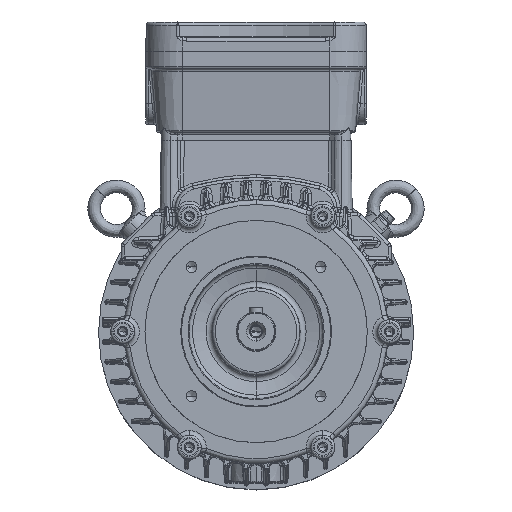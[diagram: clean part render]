
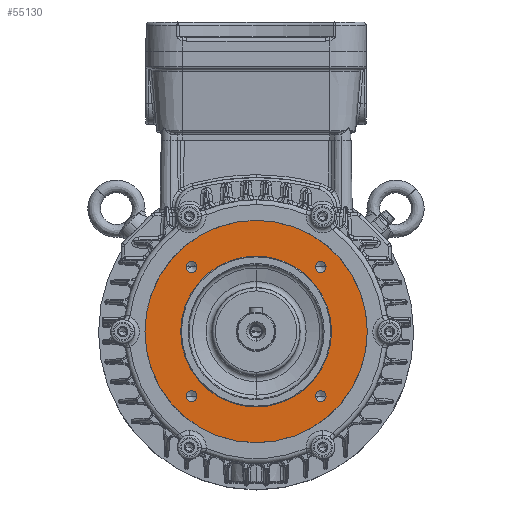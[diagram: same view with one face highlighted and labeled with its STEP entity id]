
A CAD part, top view. The second image highlights one B-rep face of the part: STEP entity #55130.
In plain terms, the highlighted planar face has unit normal (0, 0, 1).
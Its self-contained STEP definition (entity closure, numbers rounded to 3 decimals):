
#1246 = CIRCLE ( 'NONE', #128739, 47.5 ) ;
#3975 = EDGE_CURVE ( 'NONE', #145230, #85190, #66830, .T. ) ;
#5801 = VERTEX_POINT ( 'NONE', #44714 ) ;
#7339 = DIRECTION ( 'NONE',  ( 1., 0., 0. ) ) ;
#7406 = EDGE_CURVE ( 'NONE', #85190, #145230, #106694, .T. ) ;
#8713 = CIRCLE ( 'NONE', #118572, 3.4 ) ;
#10383 = CARTESIAN_POINT ( 'NONE',  ( 47.5, 0., 167. ) ) ;
#10436 = DIRECTION ( 'NONE',  ( 1., 0., 0. ) ) ;
#14014 = CARTESIAN_POINT ( 'NONE',  ( 44.059, -40.659, 167. ) ) ;
#14077 = VERTEX_POINT ( 'NONE', #10383 ) ;
#16840 = EDGE_LOOP ( 'NONE', ( #70424, #55980 ) ) ;
#17520 = CARTESIAN_POINT ( 'NONE',  ( 0., 0., 167. ) ) ;
#18535 = VERTEX_POINT ( 'NONE', #14014 ) ;
#18751 = EDGE_CURVE ( 'NONE', #22730, #14077, #1246, .T. ) ;
#21240 = EDGE_CURVE ( 'NONE', #5801, #142552, #76003, .T. ) ;
#22730 = VERTEX_POINT ( 'NONE', #62622 ) ;
#27395 = AXIS2_PLACEMENT_3D ( 'NONE', #124876, #123206, #125440 ) ;
#27606 = CARTESIAN_POINT ( 'NONE',  ( 37.259, -40.659, 167. ) ) ;
#32342 = ORIENTED_EDGE ( 'NONE', *, *, #55945, .F. ) ;
#32565 = CARTESIAN_POINT ( 'NONE',  ( 0., 0., 167. ) ) ;
#37581 = EDGE_CURVE ( 'NONE', #18535, #167648, #44693, .T. ) ;
#37825 = EDGE_LOOP ( 'NONE', ( #77658, #137117 ) ) ;
#39431 = AXIS2_PLACEMENT_3D ( 'NONE', #58336, #83758, #7339 ) ;
#40509 = VERTEX_POINT ( 'NONE', #166211 ) ;
#44693 = CIRCLE ( 'NONE', #27395, 3.4 ) ;
#44714 = CARTESIAN_POINT ( 'NONE',  ( -37.259, -40.659, 167. ) ) ;
#44796 = DIRECTION ( 'NONE',  ( 1., 0., 0. ) ) ;
#44829 = DIRECTION ( 'NONE',  ( 0., 0., 1. ) ) ;
#46153 = DIRECTION ( 'NONE',  ( 1., 0., 0. ) ) ;
#47883 = DIRECTION ( 'NONE',  ( 1., 0., 0. ) ) ;
#48466 = ORIENTED_EDGE ( 'NONE', *, *, #65318, .F. ) ;
#48539 = DIRECTION ( 'NONE',  ( 1., 0., 0. ) ) ;
#49312 = AXIS2_PLACEMENT_3D ( 'NONE', #154209, #165011, #74715 ) ;
#52917 = ORIENTED_EDGE ( 'NONE', *, *, #3975, .F. ) ;
#55130 = ADVANCED_FACE ( 'NONE', ( #144732, #126426, #124288, #132421, #63449, #162941 ), #164460, .T. ) ;
#55945 = EDGE_CURVE ( 'NONE', #114170, #40509, #115965, .T. ) ;
#55980 = ORIENTED_EDGE ( 'NONE', *, *, #80553, .F. ) ;
#57894 = EDGE_LOOP ( 'NONE', ( #111303, #160767 ) ) ;
#58108 = DIRECTION ( 'NONE',  ( 0., 0., 1. ) ) ;
#58336 = CARTESIAN_POINT ( 'NONE',  ( -40.659, 40.659, 167. ) ) ;
#58800 = EDGE_LOOP ( 'NONE', ( #32342, #48466 ) ) ;
#59181 = DIRECTION ( 'NONE',  ( 0., 0., 1. ) ) ;
#59321 = CARTESIAN_POINT ( 'NONE',  ( 0., 0., 167. ) ) ;
#59769 = DIRECTION ( 'NONE',  ( 1., 0., 0. ) ) ;
#62622 = CARTESIAN_POINT ( 'NONE',  ( -47.5, 0., 167. ) ) ;
#63449 = FACE_BOUND ( 'NONE', #58800, .T. ) ;
#65204 = CARTESIAN_POINT ( 'NONE',  ( 70., 0., 167. ) ) ;
#65318 = EDGE_CURVE ( 'NONE', #40509, #114170, #75356, .T. ) ;
#66355 = DIRECTION ( 'NONE',  ( 0., 0., 1. ) ) ;
#66830 = CIRCLE ( 'NONE', #39431, 3.4 ) ;
#70424 = ORIENTED_EDGE ( 'NONE', *, *, #37581, .F. ) ;
#74715 = DIRECTION ( 'NONE',  ( 1., 0., 0. ) ) ;
#75356 = CIRCLE ( 'NONE', #111103, 3.4 ) ;
#76003 = CIRCLE ( 'NONE', #121256, 3.4 ) ;
#77250 = CIRCLE ( 'NONE', #138208, 70. ) ;
#77658 = ORIENTED_EDGE ( 'NONE', *, *, #101667, .T. ) ;
#77672 = VERTEX_POINT ( 'NONE', #138051 ) ;
#79916 = ORIENTED_EDGE ( 'NONE', *, *, #100714, .F. ) ;
#80553 = EDGE_CURVE ( 'NONE', #167648, #18535, #111314, .T. ) ;
#80921 = DIRECTION ( 'NONE',  ( 0., 0., 1. ) ) ;
#82095 = EDGE_CURVE ( 'NONE', #77672, #138743, #167903, .T. ) ;
#83419 = CARTESIAN_POINT ( 'NONE',  ( 40.659, 40.659, 167. ) ) ;
#83529 = CARTESIAN_POINT ( 'NONE',  ( -40.659, 40.659, 167. ) ) ;
#83758 = DIRECTION ( 'NONE',  ( 0., 0., 1. ) ) ;
#83976 = DIRECTION ( 'NONE',  ( 0., 0., 1. ) ) ;
#85190 = VERTEX_POINT ( 'NONE', #114344 ) ;
#85454 = EDGE_LOOP ( 'NONE', ( #98046, #52917 ) ) ;
#90778 = AXIS2_PLACEMENT_3D ( 'NONE', #17520, #80921, #108198 ) ;
#98046 = ORIENTED_EDGE ( 'NONE', *, *, #7406, .F. ) ;
#100714 = EDGE_CURVE ( 'NONE', #142552, #5801, #8713, .T. ) ;
#101667 = EDGE_CURVE ( 'NONE', #138743, #77672, #77250, .T. ) ;
#106694 = CIRCLE ( 'NONE', #163661, 3.4 ) ;
#108198 = DIRECTION ( 'NONE',  ( 1., 0., 0. ) ) ;
#109983 = CARTESIAN_POINT ( 'NONE',  ( -44.059, -40.659, 167. ) ) ;
#110802 = DIRECTION ( 'NONE',  ( 0., 0., 1. ) ) ;
#111103 = AXIS2_PLACEMENT_3D ( 'NONE', #146965, #66355, #44796 ) ;
#111303 = ORIENTED_EDGE ( 'NONE', *, *, #129687, .F. ) ;
#111314 = CIRCLE ( 'NONE', #137264, 3.4 ) ;
#113607 = DIRECTION ( 'NONE',  ( 0., 0., 1. ) ) ;
#114170 = VERTEX_POINT ( 'NONE', #133955 ) ;
#114344 = CARTESIAN_POINT ( 'NONE',  ( -37.259, 40.659, 167. ) ) ;
#115277 = CARTESIAN_POINT ( 'NONE',  ( 0., 0., 167. ) ) ;
#115965 = CIRCLE ( 'NONE', #138529, 3.4 ) ;
#118572 = AXIS2_PLACEMENT_3D ( 'NONE', #137282, #44829, #124182 ) ;
#121256 = AXIS2_PLACEMENT_3D ( 'NONE', #152795, #151129, #47883 ) ;
#121578 = EDGE_LOOP ( 'NONE', ( #142499, #79916 ) ) ;
#123206 = DIRECTION ( 'NONE',  ( 0., 0., 1. ) ) ;
#124182 = DIRECTION ( 'NONE',  ( 1., 0., 0. ) ) ;
#124288 = FACE_BOUND ( 'NONE', #121578, .T. ) ;
#124876 = CARTESIAN_POINT ( 'NONE',  ( 40.659, -40.659, 167. ) ) ;
#125440 = DIRECTION ( 'NONE',  ( 1., 0., 0. ) ) ;
#126426 = FACE_BOUND ( 'NONE', #16840, .T. ) ;
#128739 = AXIS2_PLACEMENT_3D ( 'NONE', #115277, #113607, #10436 ) ;
#129687 = EDGE_CURVE ( 'NONE', #14077, #22730, #166672, .T. ) ;
#132421 = FACE_BOUND ( 'NONE', #85454, .T. ) ;
#133955 = CARTESIAN_POINT ( 'NONE',  ( 44.059, 40.659, 167. ) ) ;
#135159 = DIRECTION ( 'NONE',  ( 1., 0., 0. ) ) ;
#136915 = CARTESIAN_POINT ( 'NONE',  ( 40.659, -40.659, 167. ) ) ;
#137117 = ORIENTED_EDGE ( 'NONE', *, *, #82095, .T. ) ;
#137264 = AXIS2_PLACEMENT_3D ( 'NONE', #136915, #59181, #149972 ) ;
#137282 = CARTESIAN_POINT ( 'NONE',  ( -40.659, -40.659, 167. ) ) ;
#138051 = CARTESIAN_POINT ( 'NONE',  ( -70., 0., 167. ) ) ;
#138208 = AXIS2_PLACEMENT_3D ( 'NONE', #32565, #110802, #59769 ) ;
#138529 = AXIS2_PLACEMENT_3D ( 'NONE', #83419, #83976, #135159 ) ;
#138743 = VERTEX_POINT ( 'NONE', #65204 ) ;
#142499 = ORIENTED_EDGE ( 'NONE', *, *, #21240, .F. ) ;
#142552 = VERTEX_POINT ( 'NONE', #109983 ) ;
#144732 = FACE_OUTER_BOUND ( 'NONE', #37825, .T. ) ;
#145230 = VERTEX_POINT ( 'NONE', #165287 ) ;
#146965 = CARTESIAN_POINT ( 'NONE',  ( 40.659, 40.659, 167. ) ) ;
#149972 = DIRECTION ( 'NONE',  ( 1., 0., 0. ) ) ;
#151129 = DIRECTION ( 'NONE',  ( 0., 0., 1. ) ) ;
#152795 = CARTESIAN_POINT ( 'NONE',  ( -40.659, -40.659, 167. ) ) ;
#153671 = AXIS2_PLACEMENT_3D ( 'NONE', #59321, #163193, #48539 ) ;
#154209 = CARTESIAN_POINT ( 'NONE',  ( 0., 47.5, 167. ) ) ;
#160767 = ORIENTED_EDGE ( 'NONE', *, *, #18751, .F. ) ;
#162941 = FACE_BOUND ( 'NONE', #57894, .T. ) ;
#163193 = DIRECTION ( 'NONE',  ( 0., 0., 1. ) ) ;
#163661 = AXIS2_PLACEMENT_3D ( 'NONE', #83529, #58108, #46153 ) ;
#164460 = PLANE ( 'NONE',  #49312 ) ;
#165011 = DIRECTION ( 'NONE',  ( 0., 0., 1. ) ) ;
#165287 = CARTESIAN_POINT ( 'NONE',  ( -44.059, 40.659, 167. ) ) ;
#166211 = CARTESIAN_POINT ( 'NONE',  ( 37.259, 40.659, 167. ) ) ;
#166672 = CIRCLE ( 'NONE', #90778, 47.5 ) ;
#167648 = VERTEX_POINT ( 'NONE', #27606 ) ;
#167903 = CIRCLE ( 'NONE', #153671, 70. ) ;
